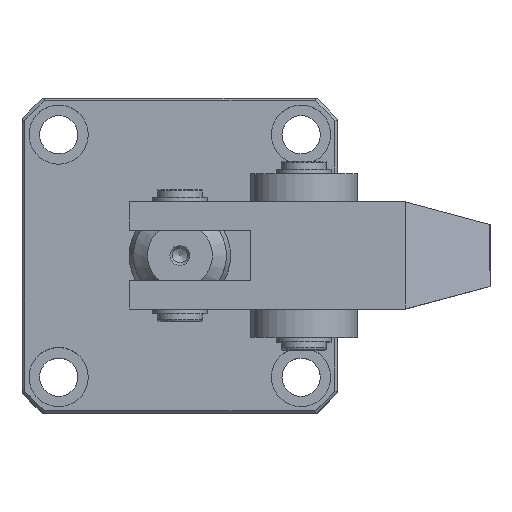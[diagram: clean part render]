
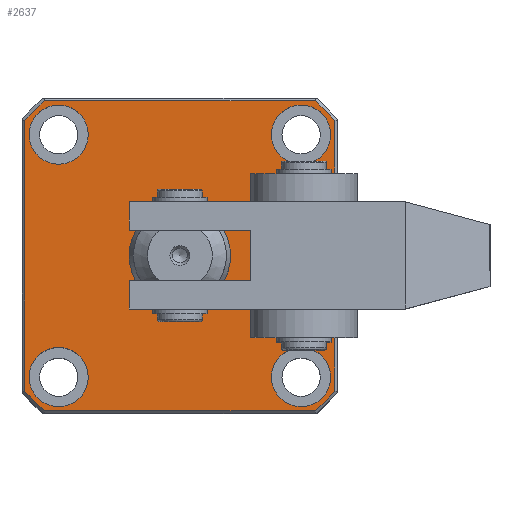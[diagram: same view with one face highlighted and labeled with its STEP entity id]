
A CAD part, top view. The second image highlights one B-rep face of the part: STEP entity #2637.
In plain terms, the highlighted planar face has unit normal (0, 0, 1).
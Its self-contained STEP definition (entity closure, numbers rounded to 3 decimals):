
#192=LINE('',#3842,#311);
#193=LINE('',#3845,#312);
#194=LINE('',#3847,#313);
#195=LINE('',#3849,#314);
#196=LINE('',#3851,#315);
#197=LINE('',#3855,#316);
#198=LINE('',#3859,#317);
#199=LINE('',#3863,#318);
#311=VECTOR('',#3131,1000.);
#312=VECTOR('',#3132,1000.);
#313=VECTOR('',#3133,1000.);
#314=VECTOR('',#3134,1000.);
#315=VECTOR('',#3135,1000.);
#316=VECTOR('',#3138,1000.);
#317=VECTOR('',#3141,1000.);
#318=VECTOR('',#3144,1000.);
#430=ORIENTED_EDGE('',*,*,#974,.T.);
#431=ORIENTED_EDGE('',*,*,#975,.F.);
#432=ORIENTED_EDGE('',*,*,#976,.F.);
#433=ORIENTED_EDGE('',*,*,#977,.F.);
#434=ORIENTED_EDGE('',*,*,#978,.F.);
#435=ORIENTED_EDGE('',*,*,#979,.T.);
#436=ORIENTED_EDGE('',*,*,#980,.F.);
#437=ORIENTED_EDGE('',*,*,#981,.F.);
#438=ORIENTED_EDGE('',*,*,#982,.F.);
#439=ORIENTED_EDGE('',*,*,#983,.T.);
#440=ORIENTED_EDGE('',*,*,#984,.T.);
#441=ORIENTED_EDGE('',*,*,#985,.T.);
#442=ORIENTED_EDGE('',*,*,#986,.T.);
#443=ORIENTED_EDGE('',*,*,#987,.T.);
#444=ORIENTED_EDGE('',*,*,#988,.T.);
#445=ORIENTED_EDGE('',*,*,#989,.T.);
#446=ORIENTED_EDGE('',*,*,#990,.T.);
#974=EDGE_CURVE('',#1246,#1246,#1450,.T.);
#975=EDGE_CURVE('',#1247,#1247,#1451,.T.);
#976=EDGE_CURVE('',#1248,#1248,#1452,.T.);
#977=EDGE_CURVE('',#1249,#1249,#1453,.T.);
#978=EDGE_CURVE('',#1250,#1250,#1454,.T.);
#979=EDGE_CURVE('',#1251,#1252,#192,.T.);
#980=EDGE_CURVE('',#1253,#1252,#193,.T.);
#981=EDGE_CURVE('',#1254,#1253,#194,.T.);
#982=EDGE_CURVE('',#1255,#1254,#195,.T.);
#983=EDGE_CURVE('',#1255,#1256,#196,.T.);
#984=EDGE_CURVE('',#1256,#1257,#1455,.T.);
#985=EDGE_CURVE('',#1257,#1258,#197,.T.);
#986=EDGE_CURVE('',#1258,#1259,#1456,.T.);
#987=EDGE_CURVE('',#1259,#1260,#198,.T.);
#988=EDGE_CURVE('',#1260,#1261,#1457,.T.);
#989=EDGE_CURVE('',#1261,#1262,#199,.T.);
#990=EDGE_CURVE('',#1262,#1251,#1458,.T.);
#1246=VERTEX_POINT('',#3833);
#1247=VERTEX_POINT('',#3835);
#1248=VERTEX_POINT('',#3837);
#1249=VERTEX_POINT('',#3839);
#1250=VERTEX_POINT('',#3841);
#1251=VERTEX_POINT('',#3843);
#1252=VERTEX_POINT('',#3844);
#1253=VERTEX_POINT('',#3846);
#1254=VERTEX_POINT('',#3848);
#1255=VERTEX_POINT('',#3850);
#1256=VERTEX_POINT('',#3852);
#1257=VERTEX_POINT('',#3854);
#1258=VERTEX_POINT('',#3856);
#1259=VERTEX_POINT('',#3858);
#1260=VERTEX_POINT('',#3860);
#1261=VERTEX_POINT('',#3862);
#1262=VERTEX_POINT('',#3864);
#1450=CIRCLE('',#2822,9.);
#1451=CIRCLE('',#2823,5.25);
#1452=CIRCLE('',#2824,5.25);
#1453=CIRCLE('',#2825,5.25);
#1454=CIRCLE('',#2826,5.25);
#1455=CIRCLE('',#2827,36.5);
#1456=CIRCLE('',#2828,36.5);
#1457=CIRCLE('',#2829,36.5);
#1458=CIRCLE('',#2830,36.5);
#1579=EDGE_LOOP('',(#430));
#1580=EDGE_LOOP('',(#431));
#1581=EDGE_LOOP('',(#432));
#1582=EDGE_LOOP('',(#433));
#1583=EDGE_LOOP('',(#434));
#1584=EDGE_LOOP('',(#435,#436,#437,#438,#439,#440,#441,#442,#443,#444,#445,
#446));
#1828=FACE_BOUND('',#1579,.T.);
#1829=FACE_BOUND('',#1580,.T.);
#1830=FACE_BOUND('',#1581,.T.);
#1831=FACE_BOUND('',#1582,.T.);
#1832=FACE_BOUND('',#1583,.T.);
#1833=FACE_BOUND('',#1584,.T.);
#2078=PLANE('',#2821);
#2637=ADVANCED_FACE('',(#1828,#1829,#1830,#1831,#1832,#1833),#2078,.T.);
#2821=AXIS2_PLACEMENT_3D('',#3831,#3119,#3120);
#2822=AXIS2_PLACEMENT_3D('',#3832,#3121,#3122);
#2823=AXIS2_PLACEMENT_3D('',#3834,#3123,#3124);
#2824=AXIS2_PLACEMENT_3D('',#3836,#3125,#3126);
#2825=AXIS2_PLACEMENT_3D('',#3838,#3127,#3128);
#2826=AXIS2_PLACEMENT_3D('',#3840,#3129,#3130);
#2827=AXIS2_PLACEMENT_3D('',#3853,#3136,#3137);
#2828=AXIS2_PLACEMENT_3D('',#3857,#3139,#3140);
#2829=AXIS2_PLACEMENT_3D('',#3861,#3142,#3143);
#2830=AXIS2_PLACEMENT_3D('',#3865,#3145,#3146);
#3119=DIRECTION('',(0.,0.,1.));
#3120=DIRECTION('',(0.,-1.,0.));
#3121=DIRECTION('',(0.,0.,-1.));
#3122=DIRECTION('',(0.,-1.,0.));
#3123=DIRECTION('',(0.,0.,1.));
#3124=DIRECTION('',(1.,0.,0.));
#3125=DIRECTION('',(0.,0.,1.));
#3126=DIRECTION('',(1.,0.,0.));
#3127=DIRECTION('',(0.,0.,1.));
#3128=DIRECTION('',(1.,0.,0.));
#3129=DIRECTION('',(0.,0.,1.));
#3130=DIRECTION('',(1.,0.,0.));
#3131=DIRECTION('',(0.,1.,0.));
#3132=DIRECTION('',(1.,0.,0.));
#3133=DIRECTION('',(0.,-1.,0.));
#3134=DIRECTION('',(-1.,0.,0.));
#3135=DIRECTION('',(0.,1.,0.));
#3136=DIRECTION('',(0.,0.,1.));
#3137=DIRECTION('',(0.,-1.,0.));
#3138=DIRECTION('',(-1.,0.,0.));
#3139=DIRECTION('',(0.,0.,1.));
#3140=DIRECTION('',(0.,-1.,0.));
#3141=DIRECTION('',(0.,-1.,0.));
#3142=DIRECTION('',(0.,0.,1.));
#3143=DIRECTION('',(0.,-1.,0.));
#3144=DIRECTION('',(1.,0.,0.));
#3145=DIRECTION('',(0.,0.,1.));
#3146=DIRECTION('',(0.,-1.,0.));
#3831=CARTESIAN_POINT('',(0.009,0.,85.));
#3832=CARTESIAN_POINT('',(0.009,0.,85.));
#3833=CARTESIAN_POINT('',(0.009,-9.,85.));
#3834=CARTESIAN_POINT('',(-21.491,-21.5,85.));
#3835=CARTESIAN_POINT('',(-16.241,-21.5,85.));
#3836=CARTESIAN_POINT('',(21.509,-21.5,85.));
#3837=CARTESIAN_POINT('',(26.759,-21.5,85.));
#3838=CARTESIAN_POINT('',(21.509,21.5,85.));
#3839=CARTESIAN_POINT('',(26.759,21.5,85.));
#3840=CARTESIAN_POINT('',(-21.491,21.5,85.));
#3841=CARTESIAN_POINT('',(-16.241,21.5,85.));
#3842=CARTESIAN_POINT('',(27.509,24.187,85.));
#3843=CARTESIAN_POINT('',(27.509,-24.,85.));
#3844=CARTESIAN_POINT('',(27.509,-9.5,85.));
#3845=CARTESIAN_POINT('',(0.009,-9.5,85.));
#3846=CARTESIAN_POINT('',(14.009,-9.5,85.));
#3847=CARTESIAN_POINT('',(14.009,-9.5,85.));
#3848=CARTESIAN_POINT('',(14.009,9.5,85.));
#3849=CARTESIAN_POINT('',(0.,9.5,85.));
#3850=CARTESIAN_POINT('',(27.509,9.5,85.));
#3851=CARTESIAN_POINT('',(27.509,24.187,85.));
#3852=CARTESIAN_POINT('',(27.509,24.,85.));
#3853=CARTESIAN_POINT('',(0.009,0.,85.));
#3854=CARTESIAN_POINT('',(24.009,27.5,85.));
#3855=CARTESIAN_POINT('',(-24.178,27.5,85.));
#3856=CARTESIAN_POINT('',(-23.991,27.5,85.));
#3857=CARTESIAN_POINT('',(0.009,0.,85.));
#3858=CARTESIAN_POINT('',(-27.491,24.,85.));
#3859=CARTESIAN_POINT('',(-27.491,-24.187,85.));
#3860=CARTESIAN_POINT('',(-27.491,-24.,85.));
#3861=CARTESIAN_POINT('',(0.009,0.,85.));
#3862=CARTESIAN_POINT('',(-23.991,-27.5,85.));
#3863=CARTESIAN_POINT('',(24.196,-27.5,85.));
#3864=CARTESIAN_POINT('',(24.009,-27.5,85.));
#3865=CARTESIAN_POINT('',(0.009,0.,85.));
